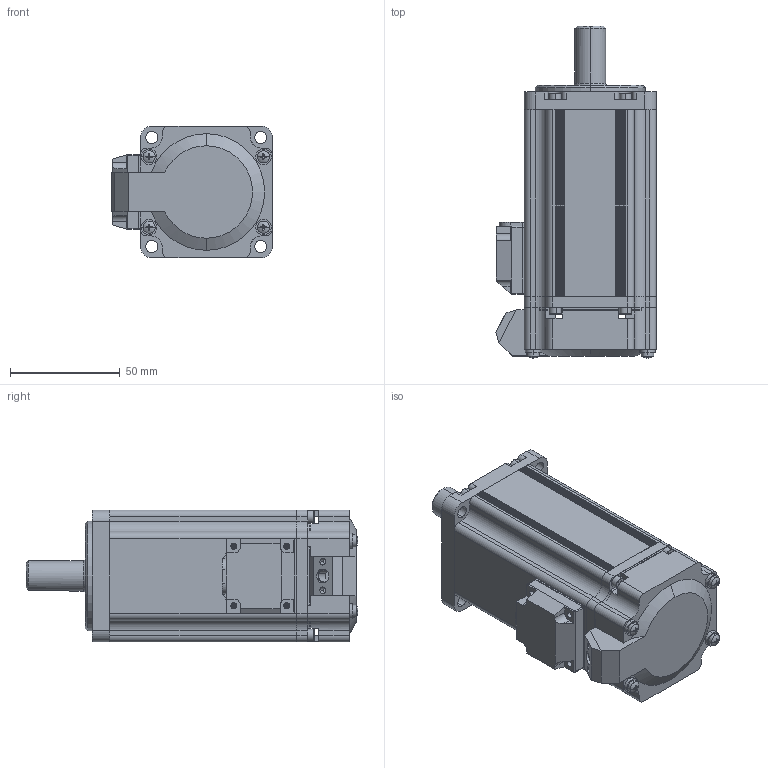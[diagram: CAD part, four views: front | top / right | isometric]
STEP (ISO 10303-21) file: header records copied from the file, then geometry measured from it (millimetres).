
FILE_DESCRIPTION (( 'STEP AP203' ), '1' );
FILE_NAME ('MS6H-60C30B1-20P4.STEP', '2022-11-18T09:10:23', ( '' ), ( '' ), 'SwSTEP 2.0', 'SolidWorks 2016', '' );
FILE_SCHEMA (( 'CONFIG_CONTROL_DESIGN' ));
Length unit declared in the file: millimetre
Products named in the file (2): MS6H-60C30B1-20P4
Bounding box: 73 x 150.89 x 60 mm (x, y, z)
Surface area: 45952.2 mm2 (no closed solid volume)
Topology: 0 solids, 31 shells, 524 faces, 1686 edges, 1186 vertices
Faces by surface type: cylinder 257, plane 225, torus 22, cone 11, sphere 8, bspline 1
Entity records: 19305 total; most frequent: CARTESIAN_POINT 3957, DIRECTION 3496, ORIENTED_EDGE 2662, EDGE_CURVE 1686, AXIS2_PLACEMENT_3D 1307, VERTEX_POINT 1186, VECTOR 882, LINE 882
